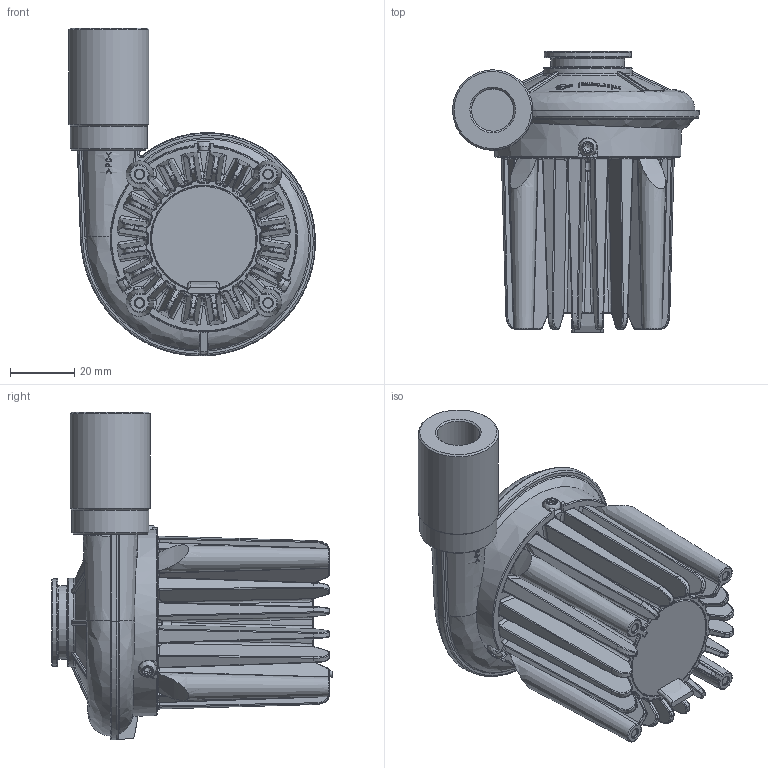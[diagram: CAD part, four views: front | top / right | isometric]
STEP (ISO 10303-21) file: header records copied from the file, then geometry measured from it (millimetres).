
FILE_DESCRIPTION(/* description */ (''),/* implementation_level */ '2;1');
FILE_NAME(/* name */ 'U71HL-024KM-52.stp',/* time_stamp */ '2024-06-24T09:15:09+02:00',/* author */ (''),/* organization */ (''),/* preprocessor_version */ 'ST-DEVELOPER v16.7',/* originating_system */ 'SIEMENS PLM Software NX 1946',/* authorisation */ '');
FILE_SCHEMA (('AUTOMOTIVE_DESIGN { 1 0 10303 214 3 1 1 1 }'));
Products named in the file (1): 021756_1- __
Bounding box: 76.78 x 87.4 x 102.01 mm (x, y, z)
Volume: 174290.4 mm3; surface area: 45603.6 mm2
Topology: 1 solids, 1 shells, 1574 faces, 3970 edges, 2417 vertices
Faces by surface type: plane 493, bspline 417, cylinder 328, cone 135, torus 135, sphere 44, revolution 17, extrusion 5
Full cylindrical faces by diameter (mm): 2.75 x4, 3 x3, 13.2 x1, 19.9 x2, 21.6 x1, 22.9 x1, 23.9 x1, 25 x1, 33 x1
Entity records: 61712 total; most frequent: CARTESIAN_POINT 29359, ORIENTED_EDGE 7790, DIRECTION 5010, EDGE_CURVE 3895, VERTEX_POINT 2402, AXIS2_PLACEMENT_3D 1882, B_SPLINE_CURVE_WITH_KNOTS 1818, EDGE_LOOP 1660
